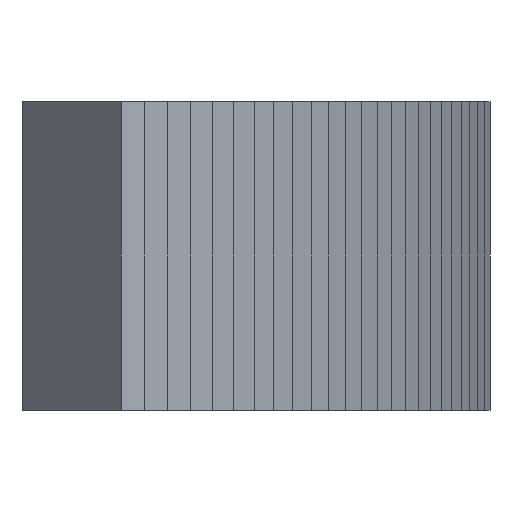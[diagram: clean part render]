
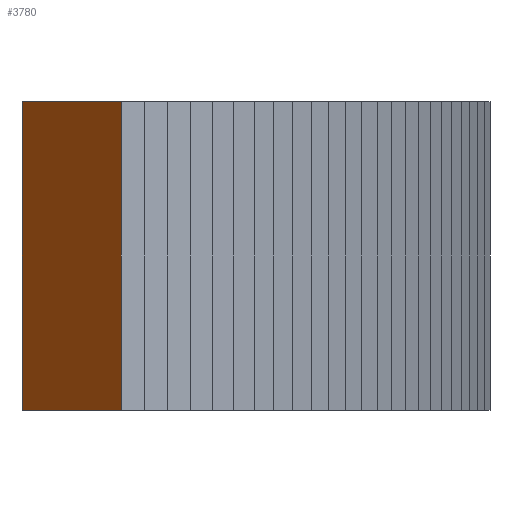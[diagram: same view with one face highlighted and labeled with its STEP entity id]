
A CAD part, front view. The second image highlights one B-rep face of the part: STEP entity #3780.
In plain terms, the highlighted planar face has unit normal (-0.766, -0.643, 0).
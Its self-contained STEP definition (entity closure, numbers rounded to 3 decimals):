
#21 = EDGE_CURVE('',#22,#24,#26,.T.);
#22 = VERTEX_POINT('',#23);
#23 = CARTESIAN_POINT('',(152.998,-21.449,54.));
#24 = VERTEX_POINT('',#25);
#25 = CARTESIAN_POINT('',(152.998,-21.449,62.));
#26 = SURFACE_CURVE('',#27,(#31,#43),.PCURVE_S1.);
#27 = LINE('',#28,#29);
#28 = CARTESIAN_POINT('',(152.998,-21.449,54.));
#29 = VECTOR('',#30,1.);
#30 = DIRECTION('',(0.,0.,1.));
#31 = PCURVE('',#32,#37);
#32 = PLANE('',#33);
#33 = AXIS2_PLACEMENT_3D('',#34,#35,#36);
#34 = CARTESIAN_POINT('',(152.998,-21.449,54.));
#35 = DIRECTION('',(-0.654,0.757,0.));
#36 = DIRECTION('',(0.757,0.654,0.));
#37 = DEFINITIONAL_REPRESENTATION('',(#38),#42);
#38 = LINE('',#39,#40);
#39 = CARTESIAN_POINT('',(0.,0.));
#40 = VECTOR('',#41,1.);
#41 = DIRECTION('',(0.,-1.));
#42 = ( GEOMETRIC_REPRESENTATION_CONTEXT(2) 
PARAMETRIC_REPRESENTATION_CONTEXT() REPRESENTATION_CONTEXT('2D SPACE',''
  ) );
#43 = PCURVE('',#44,#49);
#44 = PLANE('',#45);
#45 = AXIS2_PLACEMENT_3D('',#46,#47,#48);
#46 = CARTESIAN_POINT('',(150.427,-18.385,54.));
#47 = DIRECTION('',(0.766,0.643,-0.));
#48 = DIRECTION('',(0.643,-0.766,0.));
#49 = DEFINITIONAL_REPRESENTATION('',(#50),#54);
#50 = LINE('',#51,#52);
#51 = CARTESIAN_POINT('',(4.,0.));
#52 = VECTOR('',#53,1.);
#53 = DIRECTION('',(0.,-1.));
#54 = ( GEOMETRIC_REPRESENTATION_CONTEXT(2) 
PARAMETRIC_REPRESENTATION_CONTEXT() REPRESENTATION_CONTEXT('2D SPACE',''
  ) );
#72 = PLANE('',#73);
#73 = AXIS2_PLACEMENT_3D('',#74,#75,#76);
#74 = CARTESIAN_POINT('',(157.005,-12.704,62.));
#75 = DIRECTION('',(0.,0.,1.));
#76 = DIRECTION('',(1.,0.,-0.));
#126 = PLANE('',#127);
#127 = AXIS2_PLACEMENT_3D('',#128,#129,#130);
#128 = CARTESIAN_POINT('',(157.005,-12.704,54.));
#129 = DIRECTION('',(0.,0.,1.));
#130 = DIRECTION('',(1.,0.,-0.));
#3677 = PLANE('',#3678);
#3678 = AXIS2_PLACEMENT_3D('',#3679,#3680,#3681);
#3679 = CARTESIAN_POINT('',(150.955,-17.929,54.));
#3680 = DIRECTION('',(0.654,-0.757,0.));
#3681 = DIRECTION('',(-0.757,-0.654,0.));
#3715 = VERTEX_POINT('',#3716);
#3716 = CARTESIAN_POINT('',(150.427,-18.385,62.));
#3737 = EDGE_CURVE('',#3738,#3715,#3740,.T.);
#3738 = VERTEX_POINT('',#3739);
#3739 = CARTESIAN_POINT('',(150.427,-18.385,54.));
#3740 = SURFACE_CURVE('',#3741,(#3745,#3752),.PCURVE_S1.);
#3741 = LINE('',#3742,#3743);
#3742 = CARTESIAN_POINT('',(150.427,-18.385,54.));
#3743 = VECTOR('',#3744,1.);
#3744 = DIRECTION('',(0.,0.,1.));
#3745 = PCURVE('',#3677,#3746);
#3746 = DEFINITIONAL_REPRESENTATION('',(#3747),#3751);
#3747 = LINE('',#3748,#3749);
#3748 = CARTESIAN_POINT('',(0.698,0.));
#3749 = VECTOR('',#3750,1.);
#3750 = DIRECTION('',(0.,-1.));
#3751 = ( GEOMETRIC_REPRESENTATION_CONTEXT(2) 
PARAMETRIC_REPRESENTATION_CONTEXT() REPRESENTATION_CONTEXT('2D SPACE',''
  ) );
#3752 = PCURVE('',#44,#3753);
#3753 = DEFINITIONAL_REPRESENTATION('',(#3754),#3758);
#3754 = LINE('',#3755,#3756);
#3755 = CARTESIAN_POINT('',(0.,0.));
#3756 = VECTOR('',#3757,1.);
#3757 = DIRECTION('',(0.,-1.));
#3758 = ( GEOMETRIC_REPRESENTATION_CONTEXT(2) 
PARAMETRIC_REPRESENTATION_CONTEXT() REPRESENTATION_CONTEXT('2D SPACE',''
  ) );
#3780 = ADVANCED_FACE('',(#3781),#44,.F.);
#3781 = FACE_BOUND('',#3782,.F.);
#3782 = EDGE_LOOP('',(#3783,#3784,#3805,#3806));
#3783 = ORIENTED_EDGE('',*,*,#3737,.T.);
#3784 = ORIENTED_EDGE('',*,*,#3785,.T.);
#3785 = EDGE_CURVE('',#3715,#24,#3786,.T.);
#3786 = SURFACE_CURVE('',#3787,(#3791,#3798),.PCURVE_S1.);
#3787 = LINE('',#3788,#3789);
#3788 = CARTESIAN_POINT('',(150.427,-18.385,62.));
#3789 = VECTOR('',#3790,1.);
#3790 = DIRECTION('',(0.643,-0.766,0.));
#3791 = PCURVE('',#44,#3792);
#3792 = DEFINITIONAL_REPRESENTATION('',(#3793),#3797);
#3793 = LINE('',#3794,#3795);
#3794 = CARTESIAN_POINT('',(0.,-8.));
#3795 = VECTOR('',#3796,1.);
#3796 = DIRECTION('',(1.,0.));
#3797 = ( GEOMETRIC_REPRESENTATION_CONTEXT(2) 
PARAMETRIC_REPRESENTATION_CONTEXT() REPRESENTATION_CONTEXT('2D SPACE',''
  ) );
#3798 = PCURVE('',#72,#3799);
#3799 = DEFINITIONAL_REPRESENTATION('',(#3800),#3804);
#3800 = LINE('',#3801,#3802);
#3801 = CARTESIAN_POINT('',(-6.578,-5.681));
#3802 = VECTOR('',#3803,1.);
#3803 = DIRECTION('',(0.643,-0.766));
#3804 = ( GEOMETRIC_REPRESENTATION_CONTEXT(2) 
PARAMETRIC_REPRESENTATION_CONTEXT() REPRESENTATION_CONTEXT('2D SPACE',''
  ) );
#3805 = ORIENTED_EDGE('',*,*,#21,.F.);
#3806 = ORIENTED_EDGE('',*,*,#3807,.F.);
#3807 = EDGE_CURVE('',#3738,#22,#3808,.T.);
#3808 = SURFACE_CURVE('',#3809,(#3813,#3820),.PCURVE_S1.);
#3809 = LINE('',#3810,#3811);
#3810 = CARTESIAN_POINT('',(150.427,-18.385,54.));
#3811 = VECTOR('',#3812,1.);
#3812 = DIRECTION('',(0.643,-0.766,0.));
#3813 = PCURVE('',#44,#3814);
#3814 = DEFINITIONAL_REPRESENTATION('',(#3815),#3819);
#3815 = LINE('',#3816,#3817);
#3816 = CARTESIAN_POINT('',(0.,0.));
#3817 = VECTOR('',#3818,1.);
#3818 = DIRECTION('',(1.,0.));
#3819 = ( GEOMETRIC_REPRESENTATION_CONTEXT(2) 
PARAMETRIC_REPRESENTATION_CONTEXT() REPRESENTATION_CONTEXT('2D SPACE',''
  ) );
#3820 = PCURVE('',#126,#3821);
#3821 = DEFINITIONAL_REPRESENTATION('',(#3822),#3826);
#3822 = LINE('',#3823,#3824);
#3823 = CARTESIAN_POINT('',(-6.578,-5.681));
#3824 = VECTOR('',#3825,1.);
#3825 = DIRECTION('',(0.643,-0.766));
#3826 = ( GEOMETRIC_REPRESENTATION_CONTEXT(2) 
PARAMETRIC_REPRESENTATION_CONTEXT() REPRESENTATION_CONTEXT('2D SPACE',''
  ) );
